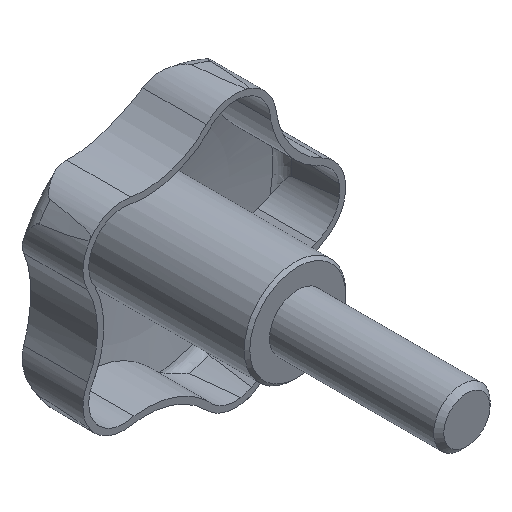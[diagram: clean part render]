
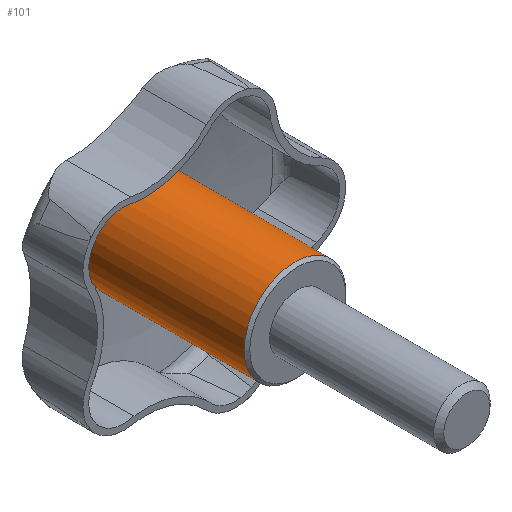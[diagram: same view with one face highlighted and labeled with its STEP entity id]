
A CAD part, isometric view. The second image highlights one B-rep face of the part: STEP entity #101.
In plain terms, the highlighted cylindrical face has radius 9 mm (diameter 18 mm), a full revolution.
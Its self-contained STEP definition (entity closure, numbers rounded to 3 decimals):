
#101 = ADVANCED_FACE( '', ( #189, #190 ), #191, .T. );
#189 = FACE_OUTER_BOUND( '', #315, .T. );
#190 = FACE_OUTER_BOUND( '', #316, .T. );
#191 = CYLINDRICAL_SURFACE( '', #317, 9. );
#315 = EDGE_LOOP( '', ( #608 ) );
#316 = EDGE_LOOP( '', ( #609 ) );
#317 = AXIS2_PLACEMENT_3D( '', #610, #611, #612 );
#608 = ORIENTED_EDGE( '', *, *, #973, .F. );
#609 = ORIENTED_EDGE( '', *, *, #917, .T. );
#610 = CARTESIAN_POINT( '', ( 0., -30., 0. ) );
#611 = DIRECTION( '', ( 0., 1., 0. ) );
#612 = DIRECTION( '', ( 0., 0., -1. ) );
#917 = EDGE_CURVE( '', #1115, #1115, #1116, .T. );
#973 = EDGE_CURVE( '', #1205, #1205, #1206, .T. );
#1115 = VERTEX_POINT( '', #1681 );
#1116 = CIRCLE( '', #1682, 9. );
#1205 = VERTEX_POINT( '', #2117 );
#1206 = CIRCLE( '', #2118, 9. );
#1681 = CARTESIAN_POINT( '', ( 0., 28.534, -9. ) );
#1682 = AXIS2_PLACEMENT_3D( '', #2339, #2340, #2341 );
#2117 = CARTESIAN_POINT( '', ( 0., 0.5, -9. ) );
#2118 = AXIS2_PLACEMENT_3D( '', #2393, #2394, #2395 );
#2339 = CARTESIAN_POINT( '', ( 0., 28.534, 0. ) );
#2340 = DIRECTION( '', ( 0., -1., 0. ) );
#2341 = DIRECTION( '', ( 0., 0., -1. ) );
#2393 = CARTESIAN_POINT( '', ( 0., 0.5, 0. ) );
#2394 = DIRECTION( '', ( 0., -1., 0. ) );
#2395 = DIRECTION( '', ( 0., 0., -1. ) );
